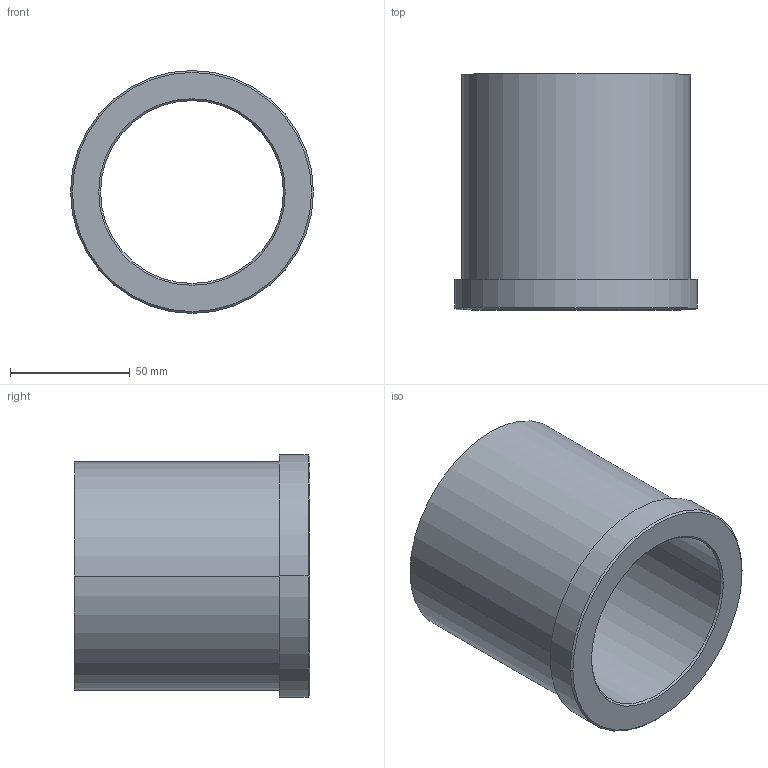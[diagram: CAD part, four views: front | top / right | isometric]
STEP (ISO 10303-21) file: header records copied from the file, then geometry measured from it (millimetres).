
FILE_DESCRIPTION (( 'STEP AP203' ), '1' );
FILE_NAME ('LBB 24-37.step', '2014-09-14T01:20:45', ( '' ), ( '' ), 'SwSTEP 2.0', 'SolidWorks 2009', '' );
FILE_SCHEMA (( 'CONFIG_CONTROL_DESIGN' ));
Length unit declared in the file: inch
Products named in the file (1): LBB 24-37
Bounding box: 101.35 x 98.42 x 101.35 mm (x, y, z)
Volume: 262817.3 mm3; surface area: 59877.7 mm2
Topology: 1 solids, 1 shells, 15 faces, 30 edges, 18 vertices
Faces by surface type: cylinder 6, cone 4, plane 3, torus 2
Entity records: 479 total; most frequent: DIRECTION 82, CARTESIAN_POINT 64, ORIENTED_EDGE 60, AXIS2_PLACEMENT_3D 36, EDGE_CURVE 30, CIRCLE 20, VERTEX_POINT 18, EDGE_LOOP 18
